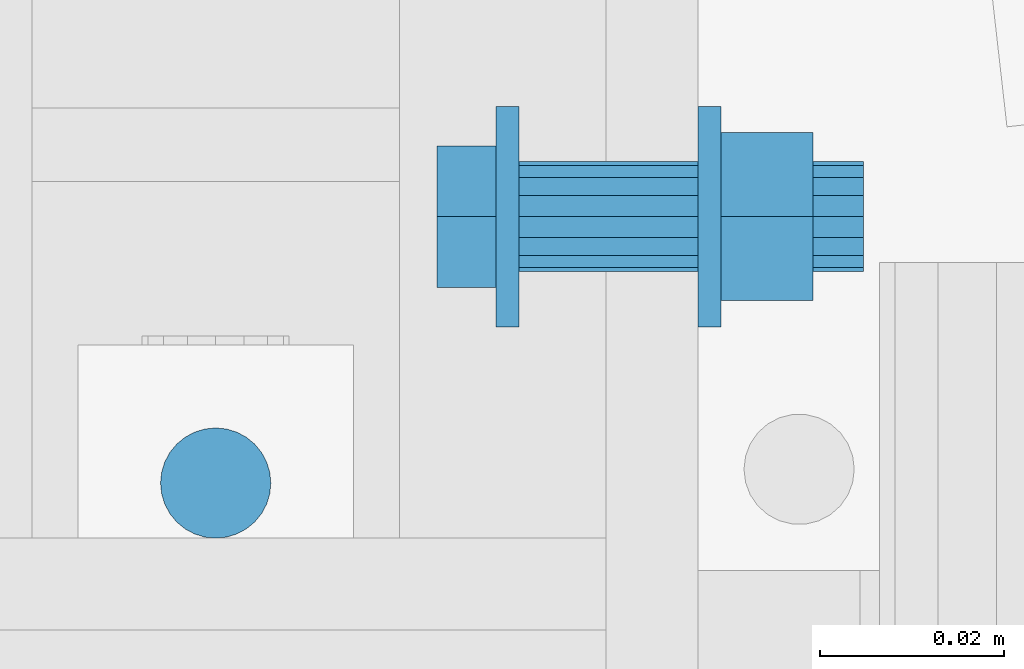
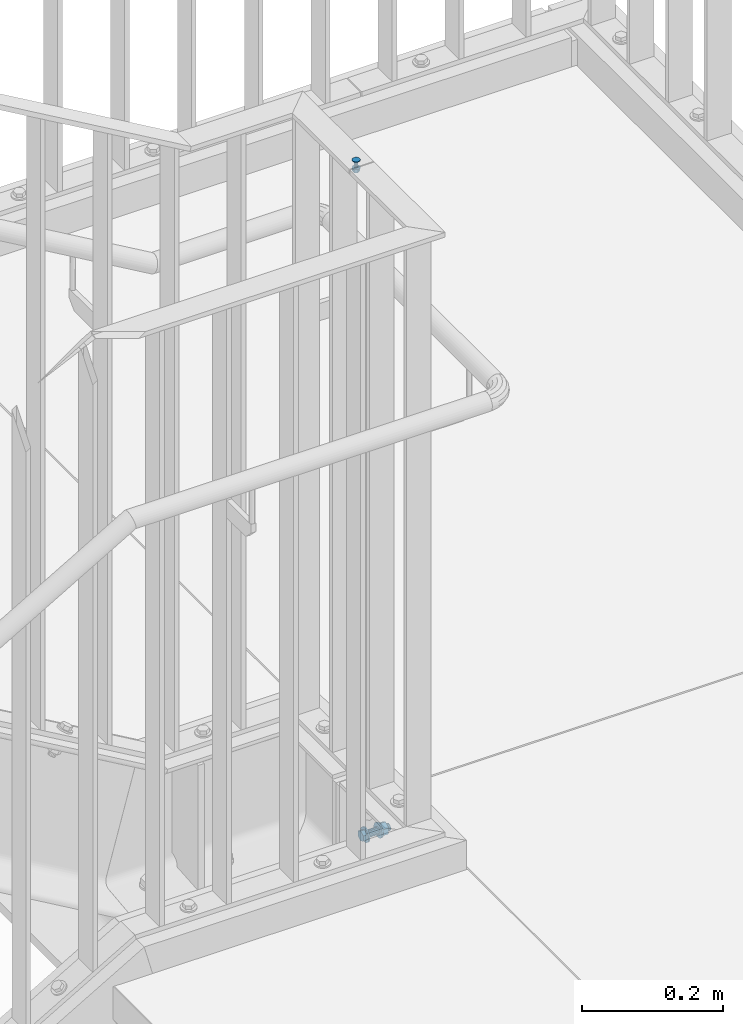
# One storey, part 110 of 145: 2 mechanical fasteners.
"""IFC2X3 building model written with IfcOpenShell, lengths in millimetres."""

from ifc_helpers import new_model, entity, si_unit, converted_unit, origin_with_axes, place, context, project, spatial, faceted_brep, element, save


model = new_model("IFC2X3")

# Units and contexts
model_context = context("Model", 3, precision=1e-09, world=origin_with_axes())
ifc_project = project(units=[si_unit("LENGTHUNIT", "METRE", prefix="MILLI"), si_unit("AREAUNIT", "SQUARE_METRE"), si_unit("VOLUMEUNIT", "CUBIC_METRE"), converted_unit("PLANEANGLEUNIT", "DEGREE", entity("IfcPlaneAngleMeasure", 0.01745329), si_unit("PLANEANGLEUNIT", "RADIAN"), dimensions=[0, 0, 0, 0, 0, 0, 0])], contexts=[model_context])

# Site, building, storey
site_placement = place(None, origin_with_axes())
site = spatial("IfcSite", under=ifc_project, at=site_placement, Name="BZ1 Grund- und Mittelschule 85716 Unterschlei?heim", CompositionType="ELEMENT")
building_placement = place(site_placement, origin_with_axes())
building = spatial("IfcBuilding", under=site, at=building_placement, Name="Struktur 1", CompositionType="ELEMENT")
storey_placement = place(building_placement, origin_with_axes())
storey = spatial("IfcBuildingStorey", under=building, at=storey_placement, Name="Default Storey", CompositionType="ELEMENT", Elevation=0.0)

# Mechanical fasteners
mechanical_fastener_1_placement = place(None, origin_with_axes())
element("IfcMechanicalFastener", 1, at=mechanical_fastener_1_placement, inside=storey, ObjectType="-", NominalDiameter=12.0, NominalLength=40.0, context=model_context, shape_type="Brep", body=[
    faceted_brep([(20423.84472732, -1638.002, 1463.6363644), (20426.34472732, -1638.002, 1463.6363644), (20426.34472732, -1638.232576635, 1461.295280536), (20423.84472732, -1638.232576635, 1461.295280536), (20426.34472732, -1638.91544561, 1459.044163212), (20423.84472732, -1638.91544561, 1459.044163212), (20426.34472732, -1640.024364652, 1456.969521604), (20423.84472732, -1640.024364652, 1456.969521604), (20426.34472732, -1641.516718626, 1455.151083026), (20423.84472732, -1641.516718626, 1455.151083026), (20426.34472732, -1643.335157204, 1453.658729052), (20423.84472732, -1643.335157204, 1453.658729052), (20426.34472732, -1645.409798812, 1452.54981001), (20423.84472732, -1645.409798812, 1452.54981001), (20426.34472732, -1647.660916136, 1451.866941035), (20423.84472732, -1647.660916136, 1451.866941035), (20426.34472732, -1650.002, 1451.6363644), (20423.84472732, -1650.002, 1451.6363644), (20426.34472732, -1652.343083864, 1451.866941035), (20423.84472732, -1652.343083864, 1451.866941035), (20426.34472732, -1654.594201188, 1452.54981001), (20423.84472732, -1654.594201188, 1452.54981001), (20426.34472732, -1656.668842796, 1453.658729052), (20423.84472732, -1656.668842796, 1453.658729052), (20426.34472732, -1658.487281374, 1455.151083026), (20423.84472732, -1658.487281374, 1455.151083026), (20426.34472732, -1659.979635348, 1456.969521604), (20423.84472732, -1659.979635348, 1456.969521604), (20426.34472732, -1661.08855439, 1459.044163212), (20423.84472732, -1661.08855439, 1459.044163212), (20426.34472732, -1661.771423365, 1461.295280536), (20423.84472732, -1661.771423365, 1461.295280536), (20426.34472732, -1662.002, 1463.6363644), (20423.84472732, -1662.002, 1463.6363644), (20426.34472732, -1661.771423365, 1465.977448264), (20423.84472732, -1661.771423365, 1465.977448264), (20426.34472732, -1661.08855439, 1468.228565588), (20423.84472732, -1661.08855439, 1468.228565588), (20426.34472732, -1659.979635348, 1470.303207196), (20423.84472732, -1659.979635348, 1470.303207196), (20426.34472732, -1658.487281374, 1472.121645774), (20423.84472732, -1658.487281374, 1472.121645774), (20426.34472732, -1656.668842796, 1473.613999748), (20423.84472732, -1656.668842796, 1473.613999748), (20426.34472732, -1654.594201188, 1474.72291879), (20423.84472732, -1654.594201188, 1474.72291879), (20426.34472732, -1652.343083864, 1475.405787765), (20423.84472732, -1652.343083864, 1475.405787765), (20426.34472732, -1650.002, 1475.6363644), (20423.84472732, -1650.002, 1475.6363644), (20426.34472732, -1647.660916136, 1475.405787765), (20423.84472732, -1647.660916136, 1475.405787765), (20426.34472732, -1645.409798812, 1474.72291879), (20423.84472732, -1645.409798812, 1474.72291879), (20426.34472732, -1643.335157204, 1473.613999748), (20423.84472732, -1643.335157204, 1473.613999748), (20426.34472732, -1641.516718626, 1472.121645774), (20423.84472732, -1641.516718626, 1472.121645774), (20426.34472732, -1640.024364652, 1470.303207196), (20423.84472732, -1640.024364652, 1470.303207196), (20426.34472732, -1638.91544561, 1468.228565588), (20423.84472732, -1638.91544561, 1468.228565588), (20426.34472732, -1638.232576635, 1465.977448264), (20423.84472732, -1638.232576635, 1465.977448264)], [[[0, 1, 2, 3]], [[3, 2, 4, 5]], [[5, 4, 6, 7]], [[7, 6, 8, 9]], [[9, 8, 10, 11]], [[11, 10, 12, 13]], [[13, 12, 14, 15]], [[15, 14, 16, 17]], [[17, 16, 18, 19]], [[19, 18, 20, 21]], [[21, 20, 22, 23]], [[23, 22, 24, 25]], [[25, 24, 26, 27]], [[27, 26, 28, 29]], [[29, 28, 30, 31]], [[31, 30, 32, 33]], [[33, 32, 34, 35]], [[35, 34, 36, 37]], [[37, 36, 38, 39]], [[39, 38, 40, 41]], [[41, 40, 42, 43]], [[43, 42, 44, 45]], [[45, 44, 46, 47]], [[47, 46, 48, 49]], [[49, 48, 50, 51]], [[51, 50, 52, 53]], [[53, 52, 54, 55]], [[55, 54, 56, 57]], [[57, 56, 58, 59]], [[59, 58, 60, 61]], [[61, 60, 62, 63]], [[63, 62, 1, 0]], [[0, 3, 5, 7, 9, 11, 13, 15, 17, 19, 21, 23, 25, 27, 29, 31, 33, 35, 37, 39, 41, 43, 45, 47, 49, 51, 53, 55, 57, 59, 61, 63]], [[1, 62, 60, 58, 56, 54, 52, 50, 48, 46, 44, 42, 40, 38, 36, 34, 32, 30, 28, 26, 24, 22, 20, 18, 16, 14, 12, 10, 8, 6, 4, 2]]]),
    faceted_brep([(20423.84472732, -1657.696635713, 1459.1938644), (20417.44472732, -1657.696635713, 1459.1938644), (20417.44472732, -1650.002, 1454.7513644), (20423.84472732, -1650.002, 1454.7513644), (20417.44472732, -1642.307364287, 1459.1938644), (20423.84472732, -1642.307364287, 1459.1938644), (20417.44472732, -1642.307364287, 1468.0788644), (20423.84472732, -1642.307364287, 1468.0788644), (20417.44472732, -1650.002, 1472.5213644), (20423.84472732, -1650.002, 1472.5213644), (20417.44472732, -1657.696635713, 1468.0788644), (20423.84472732, -1657.696635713, 1468.0788644)], [[[0, 1, 2, 3]], [[3, 2, 4, 5]], [[5, 4, 6, 7]], [[7, 6, 8, 9]], [[9, 8, 10, 11]], [[11, 10, 1, 0]], [[4, 2, 1, 10, 8, 6]], [[0, 3, 5, 7, 9, 11]]]),
    faceted_brep([(20426.34472732, -1644.002, 1463.6363644), (20445.84472732, -1644.002, 1463.6363644), (20445.84472732, -1644.458722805, 1461.340263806), (20426.34472732, -1644.458722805, 1461.340263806), (20445.84472732, -1645.759359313, 1459.393723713), (20426.34472732, -1645.759359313, 1459.393723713), (20445.84472732, -1647.705899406, 1458.093087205), (20426.34472732, -1647.705899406, 1458.093087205), (20445.84472732, -1650.002, 1457.6363644), (20426.34472732, -1650.002, 1457.6363644), (20445.84472732, -1652.298100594, 1458.093087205), (20426.34472732, -1652.298100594, 1458.093087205), (20445.84472732, -1654.244640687, 1459.393723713), (20426.34472732, -1654.244640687, 1459.393723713), (20445.84472732, -1655.545277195, 1461.340263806), (20426.34472732, -1655.545277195, 1461.340263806), (20445.84472732, -1656.002, 1463.6363644), (20426.34472732, -1656.002, 1463.6363644), (20445.84472732, -1655.545277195, 1465.932464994), (20426.34472732, -1655.545277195, 1465.932464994), (20445.84472732, -1654.244640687, 1467.879005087), (20426.34472732, -1654.244640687, 1467.879005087), (20445.84472732, -1652.298100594, 1469.179641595), (20426.34472732, -1652.298100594, 1469.179641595), (20445.84472732, -1650.002, 1469.6363644), (20426.34472732, -1650.002, 1469.6363644), (20445.84472732, -1647.705899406, 1469.179641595), (20426.34472732, -1647.705899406, 1469.179641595), (20445.84472732, -1645.759359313, 1467.879005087), (20426.34472732, -1645.759359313, 1467.879005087), (20445.84472732, -1644.458722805, 1465.932464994), (20426.34472732, -1644.458722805, 1465.932464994)], [[[0, 1, 2, 3]], [[3, 2, 4, 5]], [[5, 4, 6, 7]], [[7, 6, 8, 9]], [[9, 8, 10, 11]], [[11, 10, 12, 13]], [[13, 12, 14, 15]], [[15, 14, 16, 17]], [[17, 16, 18, 19]], [[19, 18, 20, 21]], [[21, 20, 22, 23]], [[23, 22, 24, 25]], [[25, 24, 26, 27]], [[27, 26, 28, 29]], [[29, 28, 30, 31]], [[31, 30, 1, 0]], [[0, 3, 5, 7, 9, 11, 13, 15, 17, 19, 21, 23, 25, 27, 29, 31]], [[1, 30, 28, 26, 24, 22, 20, 18, 16, 14, 12, 10, 8, 6, 4, 2]]]),
    faceted_brep([(20445.84472732, -1638.002, 1463.6363644), (20448.34472732, -1638.002, 1463.6363644), (20448.34472732, -1638.232576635, 1461.295280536), (20445.84472732, -1638.232576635, 1461.295280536), (20448.34472732, -1638.91544561, 1459.044163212), (20445.84472732, -1638.91544561, 1459.044163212), (20448.34472732, -1640.024364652, 1456.969521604), (20445.84472732, -1640.024364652, 1456.969521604), (20448.34472732, -1641.516718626, 1455.151083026), (20445.84472732, -1641.516718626, 1455.151083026), (20448.34472732, -1643.335157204, 1453.658729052), (20445.84472732, -1643.335157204, 1453.658729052), (20448.34472732, -1645.409798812, 1452.54981001), (20445.84472732, -1645.409798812, 1452.54981001), (20448.34472732, -1647.660916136, 1451.866941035), (20445.84472732, -1647.660916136, 1451.866941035), (20448.34472732, -1650.002, 1451.6363644), (20445.84472732, -1650.002, 1451.6363644), (20448.34472732, -1652.343083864, 1451.866941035), (20445.84472732, -1652.343083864, 1451.866941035), (20448.34472732, -1654.594201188, 1452.54981001), (20445.84472732, -1654.594201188, 1452.54981001), (20448.34472732, -1656.668842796, 1453.658729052), (20445.84472732, -1656.668842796, 1453.658729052), (20448.34472732, -1658.487281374, 1455.151083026), (20445.84472732, -1658.487281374, 1455.151083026), (20448.34472732, -1659.979635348, 1456.969521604), (20445.84472732, -1659.979635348, 1456.969521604), (20448.34472732, -1661.08855439, 1459.044163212), (20445.84472732, -1661.08855439, 1459.044163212), (20448.34472732, -1661.771423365, 1461.295280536), (20445.84472732, -1661.771423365, 1461.295280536), (20448.34472732, -1662.002, 1463.6363644), (20445.84472732, -1662.002, 1463.6363644), (20448.34472732, -1661.771423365, 1465.977448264), (20445.84472732, -1661.771423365, 1465.977448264), (20448.34472732, -1661.08855439, 1468.228565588), (20445.84472732, -1661.08855439, 1468.228565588), (20448.34472732, -1659.979635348, 1470.303207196), (20445.84472732, -1659.979635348, 1470.303207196), (20448.34472732, -1658.487281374, 1472.121645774), (20445.84472732, -1658.487281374, 1472.121645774), (20448.34472732, -1656.668842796, 1473.613999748), (20445.84472732, -1656.668842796, 1473.613999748), (20448.34472732, -1654.594201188, 1474.72291879), (20445.84472732, -1654.594201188, 1474.72291879), (20448.34472732, -1652.343083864, 1475.405787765), (20445.84472732, -1652.343083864, 1475.405787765), (20448.34472732, -1650.002, 1475.6363644), (20445.84472732, -1650.002, 1475.6363644), (20448.34472732, -1647.660916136, 1475.405787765), (20445.84472732, -1647.660916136, 1475.405787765), (20448.34472732, -1645.409798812, 1474.72291879), (20445.84472732, -1645.409798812, 1474.72291879), (20448.34472732, -1643.335157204, 1473.613999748), (20445.84472732, -1643.335157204, 1473.613999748), (20448.34472732, -1641.516718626, 1472.121645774), (20445.84472732, -1641.516718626, 1472.121645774), (20448.34472732, -1640.024364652, 1470.303207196), (20445.84472732, -1640.024364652, 1470.303207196), (20448.34472732, -1638.91544561, 1468.228565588), (20445.84472732, -1638.91544561, 1468.228565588), (20448.34472732, -1638.232576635, 1465.977448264), (20445.84472732, -1638.232576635, 1465.977448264)], [[[0, 1, 2, 3]], [[3, 2, 4, 5]], [[5, 4, 6, 7]], [[7, 6, 8, 9]], [[9, 8, 10, 11]], [[11, 10, 12, 13]], [[13, 12, 14, 15]], [[15, 14, 16, 17]], [[17, 16, 18, 19]], [[19, 18, 20, 21]], [[21, 20, 22, 23]], [[23, 22, 24, 25]], [[25, 24, 26, 27]], [[27, 26, 28, 29]], [[29, 28, 30, 31]], [[31, 30, 32, 33]], [[33, 32, 34, 35]], [[35, 34, 36, 37]], [[37, 36, 38, 39]], [[39, 38, 40, 41]], [[41, 40, 42, 43]], [[43, 42, 44, 45]], [[45, 44, 46, 47]], [[47, 46, 48, 49]], [[49, 48, 50, 51]], [[51, 50, 52, 53]], [[53, 52, 54, 55]], [[55, 54, 56, 57]], [[57, 56, 58, 59]], [[59, 58, 60, 61]], [[61, 60, 62, 63]], [[63, 62, 1, 0]], [[0, 3, 5, 7, 9, 11, 13, 15, 17, 19, 21, 23, 25, 27, 29, 31, 33, 35, 37, 39, 41, 43, 45, 47, 49, 51, 53, 55, 57, 59, 61, 63]], [[1, 62, 60, 58, 56, 54, 52, 50, 48, 46, 44, 42, 40, 38, 36, 34, 32, 30, 28, 26, 24, 22, 20, 18, 16, 14, 12, 10, 8, 6, 4, 2]]]),
    faceted_brep([(20458.34472732, -1659.13856801, 1458.3613644), (20448.34472732, -1659.13856801, 1458.3613644), (20448.34472732, -1650.002, 1453.0863644), (20458.34472732, -1650.002, 1453.0863644), (20448.34472732, -1640.86543199, 1458.3613644), (20458.34472732, -1640.86543199, 1458.3613644), (20448.34472732, -1640.86543199, 1468.9113644), (20458.34472732, -1640.86543199, 1468.9113644), (20448.34472732, -1650.002, 1474.1863644), (20458.34472732, -1650.002, 1474.1863644), (20448.34472732, -1659.13856801, 1468.9113644), (20458.34472732, -1659.13856801, 1468.9113644)], [[[0, 1, 2, 3]], [[3, 2, 4, 5]], [[5, 4, 6, 7]], [[7, 6, 8, 9]], [[9, 8, 10, 11]], [[11, 10, 1, 0]], [[4, 2, 1, 10, 8, 6]], [[0, 3, 5, 7, 9, 11]]]),
    faceted_brep([(20458.34472732, -1644.002, 1463.6363644), (20463.84472732, -1644.002, 1463.6363644), (20463.84472732, -1644.458722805, 1461.340263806), (20458.34472732, -1644.458722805, 1461.340263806), (20463.84472732, -1645.759359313, 1459.393723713), (20458.34472732, -1645.759359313, 1459.393723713), (20463.84472732, -1647.705899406, 1458.093087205), (20458.34472732, -1647.705899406, 1458.093087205), (20463.84472732, -1650.002, 1457.6363644), (20458.34472732, -1650.002, 1457.6363644), (20463.84472732, -1652.298100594, 1458.093087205), (20458.34472732, -1652.298100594, 1458.093087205), (20463.84472732, -1654.244640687, 1459.393723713), (20458.34472732, -1654.244640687, 1459.393723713), (20463.84472732, -1655.545277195, 1461.340263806), (20458.34472732, -1655.545277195, 1461.340263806), (20463.84472732, -1656.002, 1463.6363644), (20458.34472732, -1656.002, 1463.6363644), (20463.84472732, -1655.545277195, 1465.932464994), (20458.34472732, -1655.545277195, 1465.932464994), (20463.84472732, -1654.244640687, 1467.879005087), (20458.34472732, -1654.244640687, 1467.879005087), (20463.84472732, -1652.298100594, 1469.179641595), (20458.34472732, -1652.298100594, 1469.179641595), (20463.84472732, -1650.002, 1469.6363644), (20458.34472732, -1650.002, 1469.6363644), (20463.84472732, -1647.705899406, 1469.179641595), (20458.34472732, -1647.705899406, 1469.179641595), (20463.84472732, -1645.759359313, 1467.879005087), (20458.34472732, -1645.759359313, 1467.879005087), (20463.84472732, -1644.458722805, 1465.932464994), (20458.34472732, -1644.458722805, 1465.932464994)], [[[0, 1, 2, 3]], [[3, 2, 4, 5]], [[5, 4, 6, 7]], [[7, 6, 8, 9]], [[9, 8, 10, 11]], [[11, 10, 12, 13]], [[13, 12, 14, 15]], [[15, 14, 16, 17]], [[17, 16, 18, 19]], [[19, 18, 20, 21]], [[21, 20, 22, 23]], [[23, 22, 24, 25]], [[25, 24, 26, 27]], [[27, 26, 28, 29]], [[29, 28, 30, 31]], [[31, 30, 1, 0]], [[0, 3, 5, 7, 9, 11, 13, 15, 17, 19, 21, 23, 25, 27, 29, 31]], [[1, 30, 28, 26, 24, 22, 20, 18, 16, 14, 12, 10, 8, 6, 4, 2]]]),
])
mechanical_fastener_2_placement = place(None, origin_with_axes())
element("IfcMechanicalFastener", 2, at=mechanical_fastener_2_placement, inside=storey, ObjectType="-", NominalDiameter=6.0, NominalLength=20.0, context=model_context, shape_type="Brep", body=[
    faceted_brep([(20387.34472732, -1679.002, 2664.6363644), (20387.34472732, -1679.002, 2663.6363644), (20387.460015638, -1680.172541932, 2663.6363644), (20387.460015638, -1680.172541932, 2664.6363644), (20387.801450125, -1681.298100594, 2663.6363644), (20387.801450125, -1681.298100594, 2664.6363644), (20388.355909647, -1682.335421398, 2663.6363644), (20388.355909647, -1682.335421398, 2664.6363644), (20389.102086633, -1683.244640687, 2663.6363644), (20389.102086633, -1683.244640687, 2664.6363644), (20390.011305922, -1683.990817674, 2663.6363644), (20390.011305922, -1683.990817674, 2664.6363644), (20391.048626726, -1684.545277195, 2663.6363644), (20391.048626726, -1684.545277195, 2664.6363644), (20392.174185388, -1684.886711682, 2663.6363644), (20392.174185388, -1684.886711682, 2664.6363644), (20393.34472732, -1685.002, 2663.6363644), (20393.34472732, -1685.002, 2664.6363644), (20394.515269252, -1684.886711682, 2663.6363644), (20394.515269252, -1684.886711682, 2664.6363644), (20395.640827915, -1684.545277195, 2663.6363644), (20395.640827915, -1684.545277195, 2664.6363644), (20396.678148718, -1683.990817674, 2663.6363644), (20396.678148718, -1683.990817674, 2664.6363644), (20397.587368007, -1683.244640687, 2663.6363644), (20397.587368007, -1683.244640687, 2664.6363644), (20398.333544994, -1682.335421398, 2663.6363644), (20398.333544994, -1682.335421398, 2664.6363644), (20398.888004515, -1681.298100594, 2663.6363644), (20398.888004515, -1681.298100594, 2664.6363644), (20399.229439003, -1680.172541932, 2663.6363644), (20399.229439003, -1680.172541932, 2664.6363644), (20399.34472732, -1679.002, 2663.6363644), (20399.34472732, -1679.002, 2664.6363644), (20399.229439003, -1677.831458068, 2663.6363644), (20399.229439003, -1677.831458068, 2664.6363644), (20398.888004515, -1676.705899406, 2663.6363644), (20398.888004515, -1676.705899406, 2664.6363644), (20398.333544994, -1675.668578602, 2663.6363644), (20398.333544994, -1675.668578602, 2664.6363644), (20397.587368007, -1674.759359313, 2663.6363644), (20397.587368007, -1674.759359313, 2664.6363644), (20396.678148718, -1674.013182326, 2663.6363644), (20396.678148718, -1674.013182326, 2664.6363644), (20395.640827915, -1673.458722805, 2663.6363644), (20395.640827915, -1673.458722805, 2664.6363644), (20394.515269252, -1673.117288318, 2663.6363644), (20394.515269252, -1673.117288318, 2664.6363644), (20393.34472732, -1673.002, 2663.6363644), (20393.34472732, -1673.002, 2664.6363644), (20392.174185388, -1673.117288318, 2663.6363644), (20392.174185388, -1673.117288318, 2664.6363644), (20391.048626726, -1673.458722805, 2663.6363644), (20391.048626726, -1673.458722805, 2664.6363644), (20390.011305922, -1674.013182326, 2663.6363644), (20390.011305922, -1674.013182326, 2664.6363644), (20389.102086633, -1674.759359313, 2663.6363644), (20389.102086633, -1674.759359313, 2664.6363644), (20388.355909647, -1675.668578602, 2663.6363644), (20388.355909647, -1675.668578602, 2664.6363644), (20387.801450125, -1676.705899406, 2663.6363644), (20387.801450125, -1676.705899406, 2664.6363644), (20387.460015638, -1677.831458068, 2663.6363644), (20387.460015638, -1677.831458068, 2664.6363644)], [[[0, 1, 2, 3]], [[3, 2, 4, 5]], [[5, 4, 6, 7]], [[7, 6, 8, 9]], [[9, 8, 10, 11]], [[11, 10, 12, 13]], [[13, 12, 14, 15]], [[15, 14, 16, 17]], [[17, 16, 18, 19]], [[19, 18, 20, 21]], [[21, 20, 22, 23]], [[23, 22, 24, 25]], [[25, 24, 26, 27]], [[27, 26, 28, 29]], [[29, 28, 30, 31]], [[31, 30, 32, 33]], [[33, 32, 34, 35]], [[35, 34, 36, 37]], [[37, 36, 38, 39]], [[39, 38, 40, 41]], [[41, 40, 42, 43]], [[43, 42, 44, 45]], [[45, 44, 46, 47]], [[47, 46, 48, 49]], [[49, 48, 50, 51]], [[51, 50, 52, 53]], [[53, 52, 54, 55]], [[55, 54, 56, 57]], [[57, 56, 58, 59]], [[59, 58, 60, 61]], [[61, 60, 62, 63]], [[63, 62, 1, 0]], [[0, 3, 5, 7, 9, 11, 13, 15, 17, 19, 21, 23, 25, 27, 29, 31, 33, 35, 37, 39, 41, 43, 45, 47, 49, 51, 53, 55, 57, 59, 61, 63]], [[1, 62, 60, 58, 56, 54, 52, 50, 48, 46, 44, 42, 40, 38, 36, 34, 32, 30, 28, 26, 24, 22, 20, 18, 16, 14, 12, 10, 8, 6, 4, 2]]]),
    faceted_brep([(20390.34472732, -1679.002, 2663.6363644), (20390.34472732, -1679.002, 2651.6363644), (20390.573088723, -1680.150050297, 2651.6363644), (20390.573088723, -1680.150050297, 2663.6363644), (20391.223406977, -1681.123320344, 2651.6363644), (20391.223406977, -1681.123320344, 2663.6363644), (20392.196677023, -1681.773638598, 2651.6363644), (20392.196677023, -1681.773638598, 2663.6363644), (20393.34472732, -1682.002, 2651.6363644), (20393.34472732, -1682.002, 2663.6363644), (20394.492777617, -1681.773638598, 2651.6363644), (20394.492777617, -1681.773638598, 2663.6363644), (20395.466047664, -1681.123320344, 2651.6363644), (20395.466047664, -1681.123320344, 2663.6363644), (20396.116365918, -1680.150050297, 2651.6363644), (20396.116365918, -1680.150050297, 2663.6363644), (20396.34472732, -1679.002, 2651.6363644), (20396.34472732, -1679.002, 2663.6363644), (20396.116365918, -1677.853949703, 2651.6363644), (20396.116365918, -1677.853949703, 2663.6363644), (20395.466047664, -1676.880679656, 2651.6363644), (20395.466047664, -1676.880679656, 2663.6363644), (20394.492777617, -1676.230361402, 2651.6363644), (20394.492777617, -1676.230361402, 2663.6363644), (20393.34472732, -1676.002, 2651.6363644), (20393.34472732, -1676.002, 2663.6363644), (20392.196677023, -1676.230361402, 2651.6363644), (20392.196677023, -1676.230361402, 2663.6363644), (20391.223406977, -1676.880679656, 2651.6363644), (20391.223406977, -1676.880679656, 2663.6363644), (20390.573088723, -1677.853949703, 2651.6363644), (20390.573088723, -1677.853949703, 2663.6363644)], [[[0, 1, 2, 3]], [[3, 2, 4, 5]], [[5, 4, 6, 7]], [[7, 6, 8, 9]], [[9, 8, 10, 11]], [[11, 10, 12, 13]], [[13, 12, 14, 15]], [[15, 14, 16, 17]], [[17, 16, 18, 19]], [[19, 18, 20, 21]], [[21, 20, 22, 23]], [[23, 22, 24, 25]], [[25, 24, 26, 27]], [[27, 26, 28, 29]], [[29, 28, 30, 31]], [[31, 30, 1, 0]], [[0, 3, 5, 7, 9, 11, 13, 15, 17, 19, 21, 23, 25, 27, 29, 31]], [[1, 30, 28, 26, 24, 22, 20, 18, 16, 14, 12, 10, 8, 6, 4, 2]]]),
    faceted_brep([(20387.34472732, -1679.002, 2651.6363644), (20387.34472732, -1679.002, 2650.0363644), (20387.460015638, -1680.172541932, 2650.0363644), (20387.460015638, -1680.172541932, 2651.6363644), (20387.801450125, -1681.298100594, 2650.0363644), (20387.801450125, -1681.298100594, 2651.6363644), (20388.355909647, -1682.335421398, 2650.0363644), (20388.355909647, -1682.335421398, 2651.6363644), (20389.102086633, -1683.244640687, 2650.0363644), (20389.102086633, -1683.244640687, 2651.6363644), (20390.011305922, -1683.990817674, 2650.0363644), (20390.011305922, -1683.990817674, 2651.6363644), (20391.048626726, -1684.545277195, 2650.0363644), (20391.048626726, -1684.545277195, 2651.6363644), (20392.174185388, -1684.886711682, 2650.0363644), (20392.174185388, -1684.886711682, 2651.6363644), (20393.34472732, -1685.002, 2650.0363644), (20393.34472732, -1685.002, 2651.6363644), (20394.515269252, -1684.886711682, 2650.0363644), (20394.515269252, -1684.886711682, 2651.6363644), (20395.640827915, -1684.545277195, 2650.0363644), (20395.640827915, -1684.545277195, 2651.6363644), (20396.678148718, -1683.990817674, 2650.0363644), (20396.678148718, -1683.990817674, 2651.6363644), (20397.587368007, -1683.244640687, 2650.0363644), (20397.587368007, -1683.244640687, 2651.6363644), (20398.333544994, -1682.335421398, 2650.0363644), (20398.333544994, -1682.335421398, 2651.6363644), (20398.888004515, -1681.298100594, 2650.0363644), (20398.888004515, -1681.298100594, 2651.6363644), (20399.229439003, -1680.172541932, 2650.0363644), (20399.229439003, -1680.172541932, 2651.6363644), (20399.34472732, -1679.002, 2650.0363644), (20399.34472732, -1679.002, 2651.6363644), (20399.229439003, -1677.831458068, 2650.0363644), (20399.229439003, -1677.831458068, 2651.6363644), (20398.888004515, -1676.705899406, 2650.0363644), (20398.888004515, -1676.705899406, 2651.6363644), (20398.333544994, -1675.668578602, 2650.0363644), (20398.333544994, -1675.668578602, 2651.6363644), (20397.587368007, -1674.759359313, 2650.0363644), (20397.587368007, -1674.759359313, 2651.6363644), (20396.678148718, -1674.013182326, 2650.0363644), (20396.678148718, -1674.013182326, 2651.6363644), (20395.640827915, -1673.458722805, 2650.0363644), (20395.640827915, -1673.458722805, 2651.6363644), (20394.515269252, -1673.117288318, 2650.0363644), (20394.515269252, -1673.117288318, 2651.6363644), (20393.34472732, -1673.002, 2650.0363644), (20393.34472732, -1673.002, 2651.6363644), (20392.174185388, -1673.117288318, 2650.0363644), (20392.174185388, -1673.117288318, 2651.6363644), (20391.048626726, -1673.458722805, 2650.0363644), (20391.048626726, -1673.458722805, 2651.6363644), (20390.011305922, -1674.013182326, 2650.0363644), (20390.011305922, -1674.013182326, 2651.6363644), (20389.102086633, -1674.759359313, 2650.0363644), (20389.102086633, -1674.759359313, 2651.6363644), (20388.355909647, -1675.668578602, 2650.0363644), (20388.355909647, -1675.668578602, 2651.6363644), (20387.801450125, -1676.705899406, 2650.0363644), (20387.801450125, -1676.705899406, 2651.6363644), (20387.460015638, -1677.831458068, 2650.0363644), (20387.460015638, -1677.831458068, 2651.6363644)], [[[0, 1, 2, 3]], [[3, 2, 4, 5]], [[5, 4, 6, 7]], [[7, 6, 8, 9]], [[9, 8, 10, 11]], [[11, 10, 12, 13]], [[13, 12, 14, 15]], [[15, 14, 16, 17]], [[17, 16, 18, 19]], [[19, 18, 20, 21]], [[21, 20, 22, 23]], [[23, 22, 24, 25]], [[25, 24, 26, 27]], [[27, 26, 28, 29]], [[29, 28, 30, 31]], [[31, 30, 32, 33]], [[33, 32, 34, 35]], [[35, 34, 36, 37]], [[37, 36, 38, 39]], [[39, 38, 40, 41]], [[41, 40, 42, 43]], [[43, 42, 44, 45]], [[45, 44, 46, 47]], [[47, 46, 48, 49]], [[49, 48, 50, 51]], [[51, 50, 52, 53]], [[53, 52, 54, 55]], [[55, 54, 56, 57]], [[57, 56, 58, 59]], [[59, 58, 60, 61]], [[61, 60, 62, 63]], [[63, 62, 1, 0]], [[0, 3, 5, 7, 9, 11, 13, 15, 17, 19, 21, 23, 25, 27, 29, 31, 33, 35, 37, 39, 41, 43, 45, 47, 49, 51, 53, 55, 57, 59, 61, 63]], [[1, 62, 60, 58, 56, 54, 52, 50, 48, 46, 44, 42, 40, 38, 36, 34, 32, 30, 28, 26, 24, 22, 20, 18, 16, 14, 12, 10, 8, 6, 4, 2]]]),
    faceted_brep([(20398.129517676, -1681.7645, 2645.0363644), (20398.129517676, -1681.7645, 2650.0363644), (20393.34472732, -1684.527, 2650.0363644), (20393.34472732, -1684.527, 2645.0363644), (20388.559936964, -1681.7645, 2650.0363644), (20388.559936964, -1681.7645, 2645.0363644), (20388.559936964, -1676.2395, 2650.0363644), (20388.559936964, -1676.2395, 2645.0363644), (20393.34472732, -1673.477, 2650.0363644), (20393.34472732, -1673.477, 2645.0363644), (20398.129517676, -1676.2395, 2650.0363644), (20398.129517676, -1676.2395, 2645.0363644)], [[[0, 1, 2, 3]], [[3, 2, 4, 5]], [[5, 4, 6, 7]], [[7, 6, 8, 9]], [[9, 8, 10, 11]], [[11, 10, 1, 0]], [[4, 2, 1, 10, 8, 6]], [[0, 3, 5, 7, 9, 11]]]),
    faceted_brep([(20390.34472732, -1679.002, 2645.0363644), (20390.34472732, -1679.002, 2643.6363644), (20390.573088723, -1680.150050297, 2643.6363644), (20390.573088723, -1680.150050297, 2645.0363644), (20391.223406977, -1681.123320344, 2643.6363644), (20391.223406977, -1681.123320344, 2645.0363644), (20392.196677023, -1681.773638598, 2643.6363644), (20392.196677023, -1681.773638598, 2645.0363644), (20393.34472732, -1682.002, 2643.6363644), (20393.34472732, -1682.002, 2645.0363644), (20394.492777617, -1681.773638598, 2643.6363644), (20394.492777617, -1681.773638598, 2645.0363644), (20395.466047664, -1681.123320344, 2643.6363644), (20395.466047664, -1681.123320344, 2645.0363644), (20396.116365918, -1680.150050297, 2643.6363644), (20396.116365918, -1680.150050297, 2645.0363644), (20396.34472732, -1679.002, 2643.6363644), (20396.34472732, -1679.002, 2645.0363644), (20396.116365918, -1677.853949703, 2643.6363644), (20396.116365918, -1677.853949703, 2645.0363644), (20395.466047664, -1676.880679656, 2643.6363644), (20395.466047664, -1676.880679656, 2645.0363644), (20394.492777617, -1676.230361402, 2643.6363644), (20394.492777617, -1676.230361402, 2645.0363644), (20393.34472732, -1676.002, 2643.6363644), (20393.34472732, -1676.002, 2645.0363644), (20392.196677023, -1676.230361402, 2643.6363644), (20392.196677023, -1676.230361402, 2645.0363644), (20391.223406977, -1676.880679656, 2643.6363644), (20391.223406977, -1676.880679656, 2645.0363644), (20390.573088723, -1677.853949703, 2643.6363644), (20390.573088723, -1677.853949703, 2645.0363644)], [[[0, 1, 2, 3]], [[3, 2, 4, 5]], [[5, 4, 6, 7]], [[7, 6, 8, 9]], [[9, 8, 10, 11]], [[11, 10, 12, 13]], [[13, 12, 14, 15]], [[15, 14, 16, 17]], [[17, 16, 18, 19]], [[19, 18, 20, 21]], [[21, 20, 22, 23]], [[23, 22, 24, 25]], [[25, 24, 26, 27]], [[27, 26, 28, 29]], [[29, 28, 30, 31]], [[31, 30, 1, 0]], [[0, 3, 5, 7, 9, 11, 13, 15, 17, 19, 21, 23, 25, 27, 29, 31]], [[1, 30, 28, 26, 24, 22, 20, 18, 16, 14, 12, 10, 8, 6, 4, 2]]]),
])

save(model, "model.ifc")
